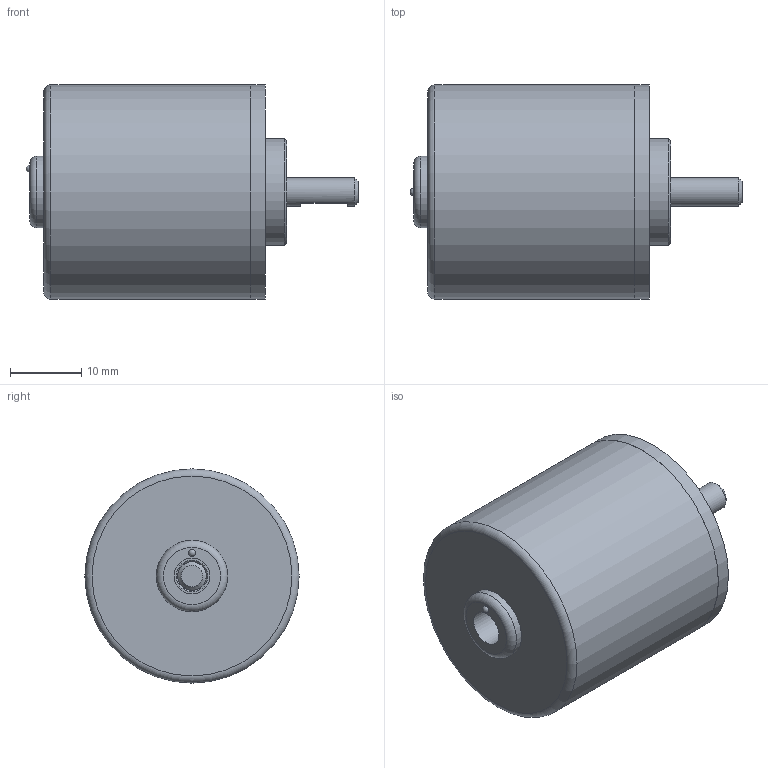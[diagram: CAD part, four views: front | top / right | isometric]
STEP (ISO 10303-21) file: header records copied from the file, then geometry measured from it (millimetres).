
FILE_DESCRIPTION( ( 'Unknown' ), '1' );
FILE_NAME( 'X:/I - Italia/UT - Ufficio Tecnico/Documenti Tecnico/Schede prodotti/InDesign/Assiemi SolidEdge per cataloghi/STEP ASSIEMI/EL30E.stp', 'Unknown', ( 'Unknown' ), ( 'Unknown' ), 'PSStep 15.0.49', 'Unknown', ' ' );
FILE_SCHEMA( ( 'AUTOMOTIVE_DESIGN { 1 0 10303 214 1 1 1 1 }' ) );
Length unit declared in the file: millimetre
Products named in the file (1): 41320018G1
Bounding box: 46.5 x 30 x 30 mm (x, y, z)
Volume: 9461.2 mm3; surface area: 9058.1 mm2
Topology: 1 solids, 4 shells, 108 faces, 261 edges, 167 vertices
Faces by surface type: plane 35, cylinder 34, cone 22, torus 9, sphere 5, bspline 3
Full cylindrical faces by diameter (mm): 2.013 x2, 2.459 x2, 4 x4, 5 x1, 6 x3, 7.5 x1, 10 x2, 11 x4, 13 x5, 14.973 x1, 15.3 x1, 27.573 x1, 28.004 x2, 29.973 x1, 30 x1
Entity records: 4587 total; most frequent: CARTESIAN_POINT 1788, DIRECTION 412, ORIENTED_EDGE 290, EDGE_LOOP 203, AXIS2_PLACEMENT_3D 198, EDGE_CURVE 145, FACE_OUTER_BOUND 139, VERTEX_POINT 131
